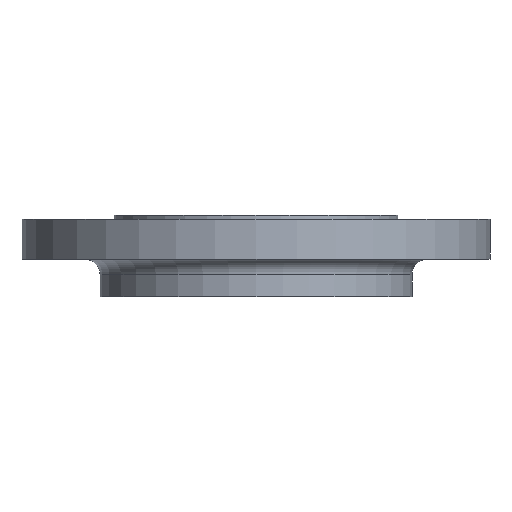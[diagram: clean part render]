
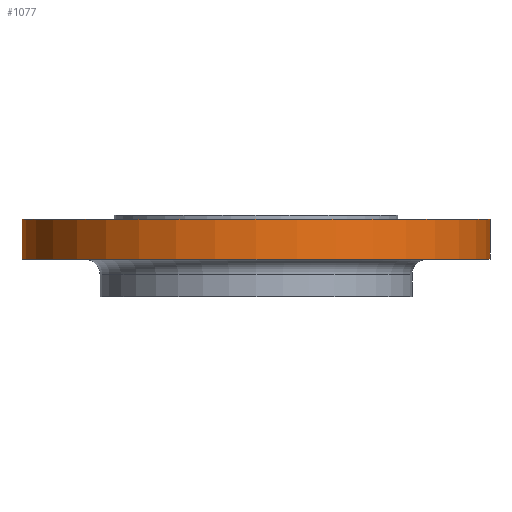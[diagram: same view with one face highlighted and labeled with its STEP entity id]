
A CAD part, front view. The second image highlights one B-rep face of the part: STEP entity #1077.
In plain terms, the highlighted cylindrical face has radius 150 mm (diameter 300 mm), a partial arc.
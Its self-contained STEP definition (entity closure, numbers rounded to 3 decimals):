
#78 = CARTESIAN_POINT ( 'NONE',  ( 150., 0., -2.5 ) ) ;
#99 = DIRECTION ( 'NONE',  ( -1., 0., 0. ) ) ;
#103 = DIRECTION ( 'NONE',  ( 0., 0., -1. ) ) ;
#104 = CARTESIAN_POINT ( 'NONE',  ( 0., 0., -2.5 ) ) ;
#116 = DIRECTION ( 'NONE',  ( 1., 0., 0. ) ) ;
#139 = CARTESIAN_POINT ( 'NONE',  ( -150., 0., -2.5 ) ) ;
#270 = AXIS2_PLACEMENT_3D ( 'NONE', #574, #842, #116 ) ;
#285 = VECTOR ( 'NONE', #304, 1000. ) ;
#304 = DIRECTION ( 'NONE',  ( 0., 0., 1. ) ) ;
#332 = CARTESIAN_POINT ( 'NONE',  ( -150., 0., -85. ) ) ;
#335 = CIRCLE ( 'NONE', #565, 150. ) ;
#340 = CARTESIAN_POINT ( 'NONE',  ( 150., 0., -28. ) ) ;
#370 = VERTEX_POINT ( 'NONE', #139 ) ;
#405 = VECTOR ( 'NONE', #634, 1000. ) ;
#422 = EDGE_CURVE ( 'NONE', #785, #370, #335, .T. ) ;
#437 = DIRECTION ( 'NONE',  ( 0., 0., 1. ) ) ;
#455 = AXIS2_PLACEMENT_3D ( 'NONE', #1092, #437, #730 ) ;
#496 = FACE_OUTER_BOUND ( 'NONE', #1120, .T. ) ;
#557 = CIRCLE ( 'NONE', #270, 150. ) ;
#565 = AXIS2_PLACEMENT_3D ( 'NONE', #104, #103, #99 ) ;
#574 = CARTESIAN_POINT ( 'NONE',  ( 0., 0., -28. ) ) ;
#634 = DIRECTION ( 'NONE',  ( 0., 0., 1. ) ) ;
#707 = LINE ( 'NONE', #1000, #285 ) ;
#729 = VERTEX_POINT ( 'NONE', #340 ) ;
#730 = DIRECTION ( 'NONE',  ( 1., 0., 0. ) ) ;
#767 = CYLINDRICAL_SURFACE ( 'NONE', #455, 150. ) ;
#785 = VERTEX_POINT ( 'NONE', #78 ) ;
#842 = DIRECTION ( 'NONE',  ( 0., 0., 1. ) ) ;
#847 = EDGE_CURVE ( 'NONE', #729, #785, #707, .T. ) ;
#903 = ORIENTED_EDGE ( 'NONE', *, *, #982, .F. ) ;
#905 = ORIENTED_EDGE ( 'NONE', *, *, #1085, .T. ) ;
#906 = ORIENTED_EDGE ( 'NONE', *, *, #847, .T. ) ;
#907 = ORIENTED_EDGE ( 'NONE', *, *, #422, .T. ) ;
#982 = EDGE_CURVE ( 'NONE', #1078, #370, #1016, .T. ) ;
#1000 = CARTESIAN_POINT ( 'NONE',  ( 150., 0., -85. ) ) ;
#1016 = LINE ( 'NONE', #332, #405 ) ;
#1022 = CARTESIAN_POINT ( 'NONE',  ( -150., 0., -28. ) ) ;
#1077 = ADVANCED_FACE ( 'NONE', ( #496 ), #767, .T. ) ;
#1078 = VERTEX_POINT ( 'NONE', #1022 ) ;
#1085 = EDGE_CURVE ( 'NONE', #1078, #729, #557, .T. ) ;
#1092 = CARTESIAN_POINT ( 'NONE',  ( 0., 0., -85. ) ) ;
#1120 = EDGE_LOOP ( 'NONE', ( #903, #905, #906, #907 ) ) ;
